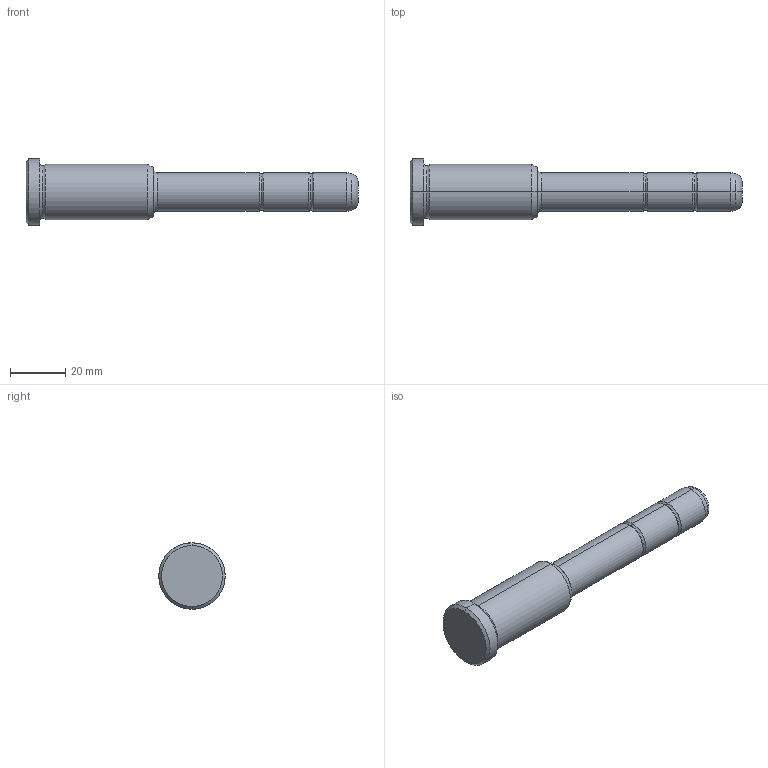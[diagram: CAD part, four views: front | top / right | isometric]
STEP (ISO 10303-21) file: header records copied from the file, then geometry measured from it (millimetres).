
FILE_DESCRIPTION(('CATIA V5 STEP Exchange'),'2;1');
FILE_NAME('C:\Users\Utente\Desktop\IO LAVORO\3D X SITO CF\X SITO\PLASTICA\351\351-14X46X120.stp','2021-08-18T10:28:12+00:00',('none'),('none'),'CATIA Version 5 Release 20 GA (IN-10)','CATIA V5 STEP AP203','none');
FILE_SCHEMA(('CONFIG_CONTROL_DESIGN'));
Length unit declared in the file: millimetre
Products named in the file (1): 351-14X46X120
Bounding box: 120 x 24 x 24 mm (x, y, z)
Volume: 26233.3 mm3; surface area: 6949.5 mm2
Topology: 1 solids, 1 shells, 36 faces, 102 edges, 70 vertices
Faces by surface type: torus 16, cylinder 10, cone 6, plane 4
Entity records: 1292 total; most frequent: CARTESIAN_POINT 321, ORIENTED_EDGE 204, DIRECTION 166, AXIS2_PLACEMENT_3D 115, EDGE_CURVE 102, CIRCLE 78, VERTEX_POINT 70, EDGE_LOOP 38
